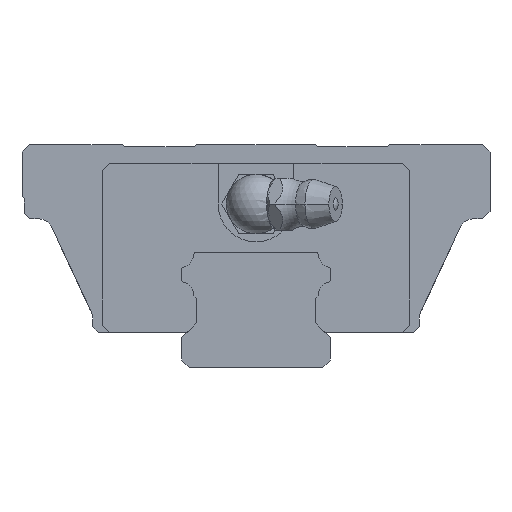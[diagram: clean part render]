
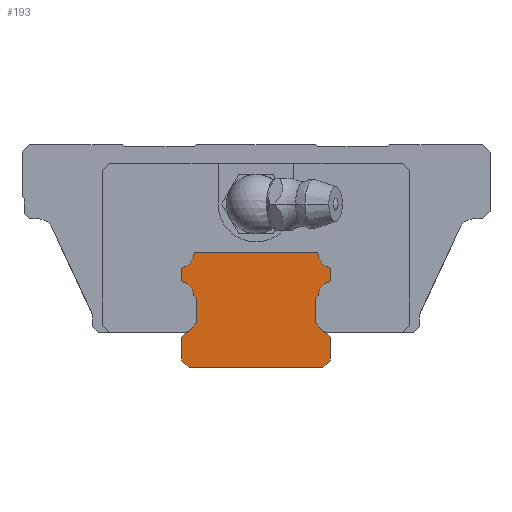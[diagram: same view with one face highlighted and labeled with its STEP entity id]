
A CAD part, front view. The second image highlights one B-rep face of the part: STEP entity #193.
In plain terms, the highlighted planar face has unit normal (0, -1, 0).
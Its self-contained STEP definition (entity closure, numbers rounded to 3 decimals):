
#193=ADVANCED_FACE('',(#458),#459,.F.);
#458=FACE_OUTER_BOUND('',#961,.T.);
#459=PLANE('',#962);
#961=EDGE_LOOP('',(#1672,#1673,#1674,#1675,#1676,#1677,#1678,#1679,#1680,#1681,#1682,#1683,#1684,#1685,#1686,#1687,#1688,#1689,#1690,#1691,#1692,#1693,#1694,#1695));
#962=AXIS2_PLACEMENT_3D('',#1696,#1697,#1698);
#1672=ORIENTED_EDGE('',*,*,#3509,.F.);
#1673=ORIENTED_EDGE('',*,*,#3563,.F.);
#1674=ORIENTED_EDGE('',*,*,#3564,.F.);
#1675=ORIENTED_EDGE('',*,*,#3565,.F.);
#1676=ORIENTED_EDGE('',*,*,#3566,.F.);
#1677=ORIENTED_EDGE('',*,*,#3567,.F.);
#1678=ORIENTED_EDGE('',*,*,#3568,.F.);
#1679=ORIENTED_EDGE('',*,*,#3569,.F.);
#1680=ORIENTED_EDGE('',*,*,#3570,.F.);
#1681=ORIENTED_EDGE('',*,*,#3571,.F.);
#1682=ORIENTED_EDGE('',*,*,#3572,.F.);
#1683=ORIENTED_EDGE('',*,*,#3573,.F.);
#1684=ORIENTED_EDGE('',*,*,#3574,.F.);
#1685=ORIENTED_EDGE('',*,*,#3520,.F.);
#1686=ORIENTED_EDGE('',*,*,#3544,.F.);
#1687=ORIENTED_EDGE('',*,*,#3575,.F.);
#1688=ORIENTED_EDGE('',*,*,#3576,.F.);
#1689=ORIENTED_EDGE('',*,*,#3577,.F.);
#1690=ORIENTED_EDGE('',*,*,#3546,.F.);
#1691=ORIENTED_EDGE('',*,*,#3516,.F.);
#1692=ORIENTED_EDGE('',*,*,#3554,.F.);
#1693=ORIENTED_EDGE('',*,*,#3561,.F.);
#1694=ORIENTED_EDGE('',*,*,#3578,.F.);
#1695=ORIENTED_EDGE('',*,*,#3513,.F.);
#1696=CARTESIAN_POINT('',(-9.7,-50.85,13.219));
#1697=DIRECTION('',(0.,1.0,0.));
#1698=DIRECTION('',(1.0,0.,0.));
#3509=EDGE_CURVE('',#4179,#4180,#4181,.T.);
#3513=EDGE_CURVE('',#4180,#4187,#4188,.T.);
#3516=EDGE_CURVE('',#4192,#4193,#4194,.T.);
#3520=EDGE_CURVE('',#4200,#4201,#4202,.T.);
#3544=EDGE_CURVE('',#4245,#4200,#4246,.T.);
#3546=EDGE_CURVE('',#4193,#4248,#4249,.T.);
#3554=EDGE_CURVE('',#4260,#4192,#4261,.T.);
#3561=EDGE_CURVE('',#4270,#4260,#4271,.T.);
#3563=EDGE_CURVE('',#4273,#4179,#4274,.T.);
#3564=EDGE_CURVE('',#4275,#4273,#4276,.T.);
#3565=EDGE_CURVE('',#4277,#4275,#4278,.T.);
#3566=EDGE_CURVE('',#4279,#4277,#4280,.T.);
#3567=EDGE_CURVE('',#4281,#4279,#4282,.T.);
#3568=EDGE_CURVE('',#4283,#4281,#4284,.T.);
#3569=EDGE_CURVE('',#4285,#4283,#4286,.T.);
#3570=EDGE_CURVE('',#4287,#4285,#4288,.T.);
#3571=EDGE_CURVE('',#4289,#4287,#4290,.T.);
#3572=EDGE_CURVE('',#4291,#4289,#4292,.T.);
#3573=EDGE_CURVE('',#4293,#4291,#4294,.T.);
#3574=EDGE_CURVE('',#4201,#4293,#4295,.T.);
#3575=EDGE_CURVE('',#4296,#4245,#4297,.T.);
#3576=EDGE_CURVE('',#4298,#4296,#4299,.T.);
#3577=EDGE_CURVE('',#4248,#4298,#4300,.T.);
#3578=EDGE_CURVE('',#4187,#4270,#4301,.T.);
#4179=VERTEX_POINT('',#5265);
#4180=VERTEX_POINT('',#5266);
#4181=LINE('',#5267,#5268);
#4187=VERTEX_POINT('',#5277);
#4188=CIRCLE('',#5278,0.3);
#4192=VERTEX_POINT('',#5283);
#4193=VERTEX_POINT('',#5284);
#4194=CIRCLE('',#5285,0.3);
#4200=VERTEX_POINT('',#5293);
#4201=VERTEX_POINT('',#5294);
#4202=LINE('',#5295,#5296);
#4245=VERTEX_POINT('',#5354);
#4246=CIRCLE('',#5355,1.9);
#4248=VERTEX_POINT('',#5358);
#4249=CIRCLE('',#5359,1.9);
#4260=VERTEX_POINT('',#5371);
#4261=LINE('',#5372,#5373);
#4270=VERTEX_POINT('',#5383);
#4271=CIRCLE('',#5384,0.3);
#4273=VERTEX_POINT('',#5387);
#4274=CIRCLE('',#5388,0.3);
#4275=VERTEX_POINT('',#5389);
#4276=CIRCLE('',#5390,1.9);
#4277=VERTEX_POINT('',#5391);
#4278=LINE('',#5392,#5393);
#4279=VERTEX_POINT('',#5394);
#4280=LINE('',#5395,#5396);
#4281=VERTEX_POINT('',#5397);
#4282=LINE('',#5398,#5399);
#4283=VERTEX_POINT('',#5400);
#4284=LINE('',#5401,#5402);
#4285=VERTEX_POINT('',#5403);
#4286=LINE('',#5404,#5405);
#4287=VERTEX_POINT('',#5406);
#4288=LINE('',#5407,#5408);
#4289=VERTEX_POINT('',#5409);
#4290=LINE('',#5410,#5411);
#4291=VERTEX_POINT('',#5412);
#4292=LINE('',#5413,#5414);
#4293=VERTEX_POINT('',#5415);
#4294=LINE('',#5416,#5417);
#4295=LINE('',#5418,#5419);
#4296=VERTEX_POINT('',#5420);
#4297=CIRCLE('',#5421,0.3);
#4298=VERTEX_POINT('',#5422);
#4299=LINE('',#5423,#5424);
#4300=CIRCLE('',#5425,0.3);
#4301=CIRCLE('',#5426,1.9);
#5265=CARTESIAN_POINT('',(-10.0,-50.85,11.781));
#5266=CARTESIAN_POINT('',(-10.0,-50.85,13.219));
#5267=CARTESIAN_POINT('',(-10.0,-50.85,11.781));
#5268=VECTOR('',#6970,1000.0);
#5277=CARTESIAN_POINT('',(-9.775,-50.85,13.51));
#5278=AXIS2_PLACEMENT_3D('',#6974,#6975,#6976);
#5283=CARTESIAN_POINT('',(8.055,-50.85,15.5));
#5284=CARTESIAN_POINT('',(8.354,-50.85,15.22));
#5285=AXIS2_PLACEMENT_3D('',#6981,#6982,#6983);
#5293=CARTESIAN_POINT('',(8.349,-50.85,9.649));
#5294=CARTESIAN_POINT('',(8.0,-50.85,9.3));
#5295=CARTESIAN_POINT('',(8.349,-50.85,9.649));
#5296=VECTOR('',#6989,1000.0);
#5354=CARTESIAN_POINT('',(9.775,-50.85,11.49));
#5355=AXIS2_PLACEMENT_3D('',#7029,#7030,#7031);
#5358=CARTESIAN_POINT('',(9.775,-50.85,13.51));
#5359=AXIS2_PLACEMENT_3D('',#7033,#7034,#7035);
#5371=CARTESIAN_POINT('',(-8.055,-50.85,15.5));
#5372=CARTESIAN_POINT('',(-8.055,-50.85,15.5));
#5373=VECTOR('',#7055,1000.0);
#5383=CARTESIAN_POINT('',(-8.354,-50.85,15.22));
#5384=AXIS2_PLACEMENT_3D('',#7072,#7073,#7074);
#5387=CARTESIAN_POINT('',(-9.775,-50.85,11.49));
#5388=AXIS2_PLACEMENT_3D('',#7076,#7077,#7078);
#5389=CARTESIAN_POINT('',(-8.349,-50.85,9.649));
#5390=AXIS2_PLACEMENT_3D('',#7079,#7080,#7081);
#5391=CARTESIAN_POINT('',(-8.0,-50.85,9.3));
#5392=CARTESIAN_POINT('',(-8.0,-50.85,9.3));
#5393=VECTOR('',#7082,1000.0);
#5394=CARTESIAN_POINT('',(-8.0,-50.85,6.));
#5395=CARTESIAN_POINT('',(-8.0,-50.85,6.));
#5396=VECTOR('',#7083,1000.0);
#5397=CARTESIAN_POINT('',(-10.0,-50.85,4.));
#5398=CARTESIAN_POINT('',(-10.0,-50.85,4.));
#5399=VECTOR('',#7084,1000.0);
#5400=CARTESIAN_POINT('',(-10.0,-50.85,1.0));
#5401=CARTESIAN_POINT('',(-10.0,-50.85,1.0));
#5402=VECTOR('',#7085,1000.0);
#5403=CARTESIAN_POINT('',(-9.0,-50.85,0.0));
#5404=CARTESIAN_POINT('',(-9.0,-50.85,0.0));
#5405=VECTOR('',#7086,1000.0);
#5406=CARTESIAN_POINT('',(9.0,-50.85,0.));
#5407=CARTESIAN_POINT('',(9.0,-50.85,0.0));
#5408=VECTOR('',#7087,1000.0);
#5409=CARTESIAN_POINT('',(10.0,-50.85,1.0));
#5410=CARTESIAN_POINT('',(10.0,-50.85,1.0));
#5411=VECTOR('',#7088,1000.0);
#5412=CARTESIAN_POINT('',(10.0,-50.85,4.));
#5413=CARTESIAN_POINT('',(10.0,-50.85,4.));
#5414=VECTOR('',#7089,1000.0);
#5415=CARTESIAN_POINT('',(8.0,-50.85,6.));
#5416=CARTESIAN_POINT('',(8.0,-50.85,6.));
#5417=VECTOR('',#7090,1000.0);
#5418=CARTESIAN_POINT('',(8.0,-50.85,9.3));
#5419=VECTOR('',#7091,1000.0);
#5420=CARTESIAN_POINT('',(10.0,-50.85,11.781));
#5421=AXIS2_PLACEMENT_3D('',#7092,#7093,#7094);
#5422=CARTESIAN_POINT('',(10.0,-50.85,13.219));
#5423=CARTESIAN_POINT('',(10.0,-50.85,13.219));
#5424=VECTOR('',#7095,1000.0);
#5425=AXIS2_PLACEMENT_3D('',#7096,#7097,#7098);
#5426=AXIS2_PLACEMENT_3D('',#7099,#7100,#7101);
#6970=DIRECTION('',(0.0,0.0,1.0));
#6974=CARTESIAN_POINT('',(-9.7,-50.85,13.219));
#6975=DIRECTION('',(0.0,1.0,0.));
#6976=DIRECTION('',(1.0,0.0,0.0));
#6981=CARTESIAN_POINT('',(8.055,-50.85,15.2));
#6982=DIRECTION('',(0.0,1.0,0.));
#6983=DIRECTION('',(1.0,0.0,0.0));
#6989=DIRECTION('',(-0.707,0.0,-0.707));
#7029=CARTESIAN_POINT('',(10.249,-50.85,9.651));
#7030=DIRECTION('',(0.0,-1.0,0.0));
#7031=DIRECTION('',(1.0,0.0,0.0));
#7033=CARTESIAN_POINT('',(10.249,-50.85,15.349));
#7034=DIRECTION('',(0.0,-1.0,0.0));
#7035=DIRECTION('',(1.0,0.0,0.0));
#7055=DIRECTION('',(1.0,0.0,0.0));
#7072=CARTESIAN_POINT('',(-8.055,-50.85,15.2));
#7073=DIRECTION('',(0.0,1.0,0.));
#7074=DIRECTION('',(1.0,0.0,0.0));
#7076=CARTESIAN_POINT('',(-9.7,-50.85,11.781));
#7077=DIRECTION('',(0.0,1.0,0.));
#7078=DIRECTION('',(1.0,0.0,0.0));
#7079=CARTESIAN_POINT('',(-10.249,-50.85,9.651));
#7080=DIRECTION('',(0.0,-1.0,0.0));
#7081=DIRECTION('',(1.0,0.0,0.0));
#7082=DIRECTION('',(-0.707,0.0,0.707));
#7083=DIRECTION('',(0.0,0.0,1.0));
#7084=DIRECTION('',(0.707,0.0,0.707));
#7085=DIRECTION('',(0.0,0.0,1.0));
#7086=DIRECTION('',(-0.707,0.0,0.707));
#7087=DIRECTION('',(-1.0,0.0,0.0));
#7088=DIRECTION('',(-0.707,0.0,-0.707));
#7089=DIRECTION('',(0.0,0.0,-1.0));
#7090=DIRECTION('',(0.707,0.0,-0.707));
#7091=DIRECTION('',(0.0,0.0,-1.0));
#7092=CARTESIAN_POINT('',(9.7,-50.85,11.781));
#7093=DIRECTION('',(0.0,1.0,0.));
#7094=DIRECTION('',(1.0,0.0,0.0));
#7095=DIRECTION('',(0.0,0.0,-1.0));
#7096=CARTESIAN_POINT('',(9.7,-50.85,13.219));
#7097=DIRECTION('',(0.0,1.0,0.));
#7098=DIRECTION('',(1.0,0.0,0.0));
#7099=CARTESIAN_POINT('',(-10.249,-50.85,15.349));
#7100=DIRECTION('',(0.0,-1.0,0.0));
#7101=DIRECTION('',(1.0,0.0,0.0));
